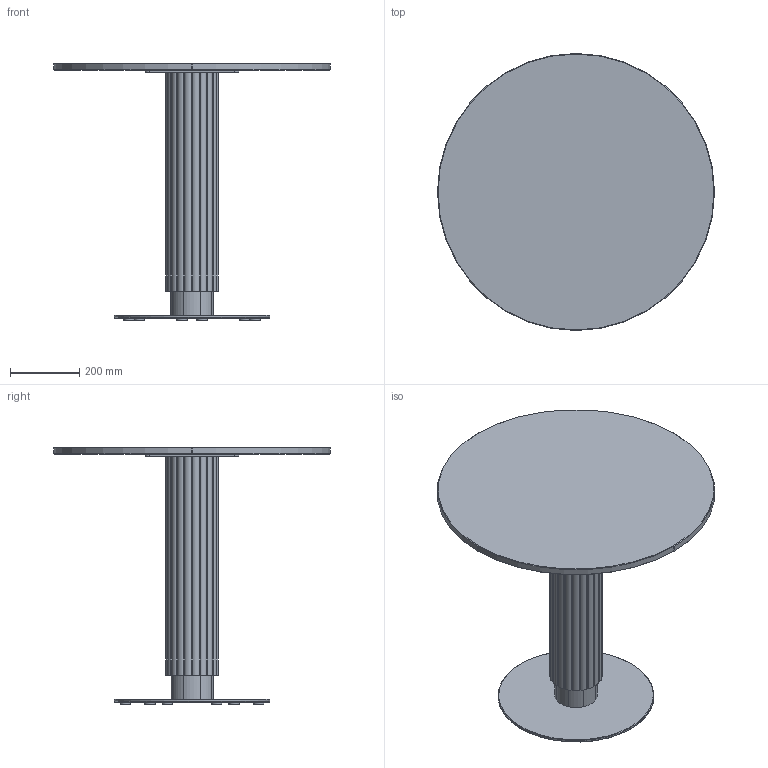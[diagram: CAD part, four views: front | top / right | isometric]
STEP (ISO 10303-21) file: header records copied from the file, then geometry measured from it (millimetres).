
FILE_DESCRIPTION( ('This file contains a STEP AP42 implementation' ,'as created by ZW3D STEP Interface translator.') ,'2;1' );
FILE_NAME( 'God - B_Rond - F1 - M1 - 800 x 800 x 750.stp' ,'24 912.1128 5', (''), ('ZWCAD Software Co.'), 'Version 1.0', 'ZW3D to STEP translator', '' );
FILE_SCHEMA(('AUTOMOTIVE_DESIGN { 1 0 10303 214 1 1 1 1 }'));
Length unit declared in the file: millimetre
Products named in the file (15): 0; PIED BISTROT PARAMETRIQUE_; SOCLE ACIER C Ø450 V.02_; SCL-D450-02_; PLA-R30A-01_; PLA-R30A-01; CROIX ACIER 370 V.02_; CRX-X370-02_; COLONNE ACIER Ø48.5 V.02_; TUB-D048-02_; PLA-R48A-01_; Colonne GODRON H700_; WUERTH 0276063020 Euro-screw 6.3x2 Verzinkt_; PLATEAU BISTROT PARAMETRIQUE_; insert_m6_13_
Assembly tree (25 placements, depth 3):
  0
  PIED BISTROT PARAMETRIQUE_
    SOCLE ACIER C Ø450 V.02_
      SCL-D450-02_
      PLA-R30A-01_
      PLA-R30A-01  x5
    CROIX ACIER 370 V.02_
      CRX-X370-02_
    COLONNE ACIER Ø48.5 V.02_
      TUB-D048-02_
      PLA-R48A-01_  x2
    Colonne GODRON H700_
    WUERTH 0276063020 Euro-screw 6.3x2 Verzinkt_
    PLATEAU BISTROT PARAMETRIQUE_
      insert_m6_13_  x8
Bounding box: 800 x 800 x 744 mm (x, y, z)
Volume: 22394636.2 mm3; surface area: 2801447.7 mm2
Topology: 29 solids, 29 shells, 656 faces, 1625 edges, 1042 vertices
Faces by surface type: plane 294, cylinder 193, bspline 121, cone 47, torus 1
Full cylindrical faces by diameter (mm): 4.88 x1, 6 x8, 6.3 x1, 8 x47, 12 x2, 14 x2, 30 x6, 44.5 x3, 48.5 x1, 450 x1
Entity records: 16234 total; most frequent: CARTESIAN_POINT 4039, DIRECTION 2249, ORIENTED_EDGE 2240, EDGE_CURVE 1120, AXIS2_PLACEMENT_3D 800, VERTEX_POINT 728, VECTOR 649, LINE 649
